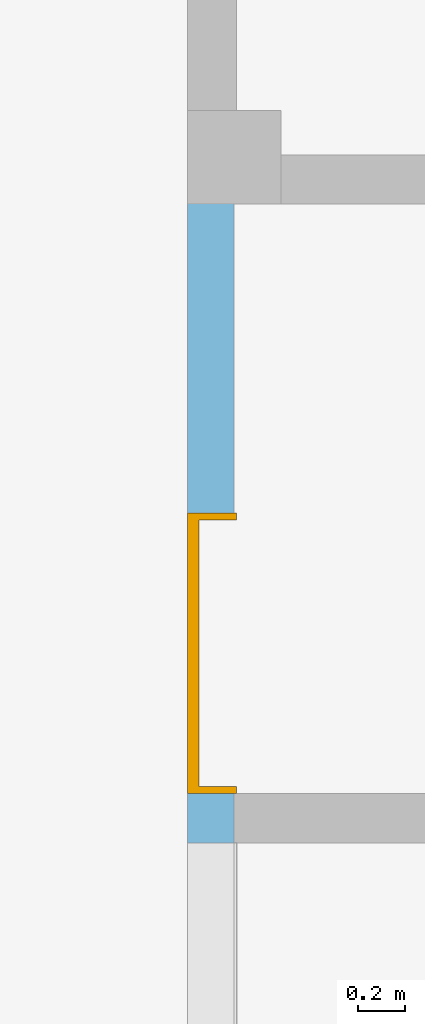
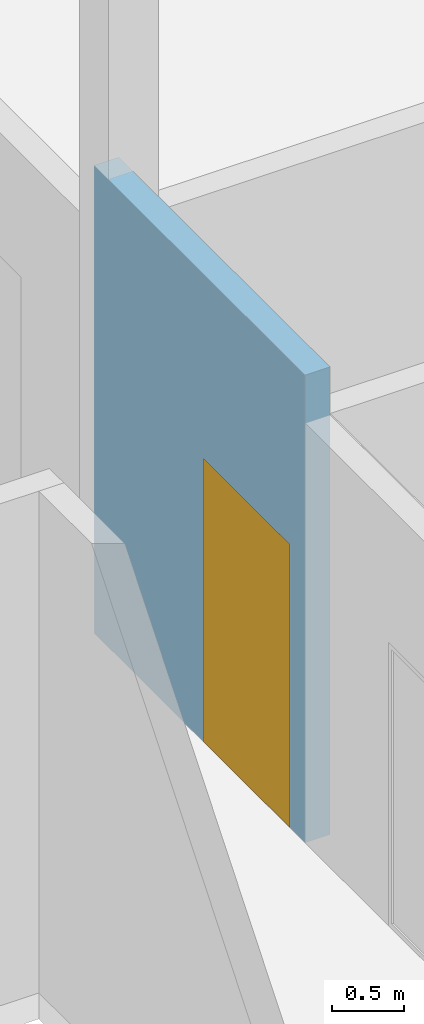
# One storey, part 38 of 89: 1 door, 1 opening, plus 1 element that does not belong to this part.
"""IFC2X3 building model written with IfcOpenShell, lengths in millimetres."""

import ifcopenshell
import ifcopenshell.guid

model = None  # the IFC model being written
_history = None  # IfcOwnerHistory: only IFC2X3 demands one
_inside = {}  # id of a spatial element -> (the spatial element, [elements in it])
_under = {}  # id of a project, library or spatial element -> (it, [spatial elements below it])
_declared = {}  # id of a project -> (the project, [libraries it declares])
_typed = {}  # id of a type object -> (the type object, [elements of that type])
_made_of = {}  # id of a material, layer set ... -> (it, [elements and type objects made of it])


def new_model(schema):
    """Start an empty IFC model of exactly this schema.

    Asked for "IFC4X3", IfcOpenShell would pick the latest addendum, in which some entities
    have other attributes; the version numbers below select the first issue.
    IFC2X3 requires an IfcOwnerHistory on every rooted entity: one is made here for all.
    """
    global model, _history
    if schema == "IFC4X3":
        model = ifcopenshell.file(schema_version=(4, 3, 0, 0))
    else:
        model = ifcopenshell.file(schema=schema)
    _inside.clear()
    _under.clear()
    _declared.clear()
    _typed.clear()
    _made_of.clear()
    _history = None
    if model.schema == "IFC2X3":
        org = make("IfcOrganization", Name="unknown")
        user = make(
            "IfcPersonAndOrganization",
            ThePerson=make("IfcPerson", FamilyName="unknown"),
            TheOrganization=org,
        )
        app = make(
            "IfcApplication",
            ApplicationDeveloper=org,
            Version="unknown",
            ApplicationFullName="unknown",
            ApplicationIdentifier="unknown",
        )
        _history = make(
            "IfcOwnerHistory",
            OwningUser=user,
            OwningApplication=app,
            ChangeAction="ADDED",
            CreationDate=0,
        )
    return model


def make(cls, **values):
    """One entity of the class cls with the attributes given. An attribute that is None is left unset."""
    return model.create_entity(
        cls, **{name: value for name, value in values.items() if value is not None}
    )


def entity(cls, *values):
    """Any entity or typed value of the class cls, its attributes in the order of the schema. None: left unset."""
    e = model.create_entity(cls)
    for i, value in enumerate(values):
        if value is not None:
            e[i] = value
    return e


def rooted(cls, **values):
    """An entity with a GlobalId (a new one), such as an element, a storey or a relation."""
    return make(cls, GlobalId=ifcopenshell.guid.new(), OwnerHistory=_history, **values)


def si_unit(unit_type, name, prefix=None):
    """IfcSIUnit, for example si_unit("LENGTHUNIT", "METRE", prefix="MILLI")."""
    return make("IfcSIUnit", UnitType=unit_type, Prefix=prefix, Name=name)


def converted_unit(unit_type, name, factor, base, dimensions=None, offset=None):
    """IfcConversionBasedUnit, such as the inch: factor (a typed value) times the base unit."""
    return make(
        "IfcConversionBasedUnit"
        if offset is None
        else "IfcConversionBasedUnitWithOffset",
        ConversionOffset=offset,
        Dimensions=None
        if dimensions is None
        else entity("IfcDimensionalExponents", *dimensions),
        UnitType=unit_type,
        Name=name,
        ConversionFactor=make(
            "IfcMeasureWithUnit", ValueComponent=factor, UnitComponent=base
        ),
    )


def derived_unit(unit_type, elements):
    """IfcDerivedUnit: a product of units, each with its exponent."""
    return make(
        "IfcDerivedUnit",
        Elements=[
            make("IfcDerivedUnitElement", Unit=unit, Exponent=power)
            for unit, power in elements
        ],
        UnitType=unit_type,
    )


def money_unit(currency):
    """IfcMonetaryUnit."""
    return make("IfcMonetaryUnit", Currency=currency)


def assignment(units):
    """IfcUnitAssignment: the units of a project."""
    return None if units is None else make("IfcUnitAssignment", Units=units)


def point(xyz):
    """IfcCartesianPoint."""
    return None if xyz is None else make("IfcCartesianPoint", Coordinates=xyz)


def direction(xyz):
    """IfcDirection."""
    return None if xyz is None else make("IfcDirection", DirectionRatios=xyz)


def frame(location, z_axis=None, x_axis=None):
    """IfcAxis2Placement3D, a coordinate frame: its origin and axes. An axis left out is left unset."""
    return make(
        "IfcAxis2Placement3D",
        Location=point(location),
        Axis=direction(z_axis),
        RefDirection=direction(x_axis),
    )


def frame_2d(location, x_axis=None):
    """IfcAxis2Placement2D, a coordinate frame in the plane: its origin and x axis."""
    return make(
        "IfcAxis2Placement2D", Location=point(location), RefDirection=direction(x_axis)
    )


def origin_with_axes():
    """The frame at (0, 0, 0) with the z axis (0, 0, 1) and the x axis (1, 0, 0) written out."""
    return frame((0.0, 0.0, 0.0), z_axis=(0.0, 0.0, 1.0), x_axis=(1.0, 0.0, 0.0))


def origin_2d_with_axis():
    """The frame at (0, 0) in the plane with the x axis (1, 0) written out."""
    return frame_2d((0.0, 0.0), x_axis=(1.0, 0.0))


def place(relative_to, where):
    """IfcLocalPlacement: puts the frame where relative to a parent placement (None: the world)."""
    return make(
        "IfcLocalPlacement", PlacementRelTo=relative_to, RelativePlacement=where
    )


def context(
    kind, dimensions, precision=None, world=None, true_north=None, identifier=None
):
    """IfcGeometricRepresentationContext, for example the 3D "Model" context."""
    return make(
        "IfcGeometricRepresentationContext",
        ContextIdentifier=identifier,
        ContextType=kind,
        CoordinateSpaceDimension=dimensions,
        Precision=precision,
        WorldCoordinateSystem=world,
        TrueNorth=true_north,
    )


def subcontext(parent, identifier, kind, view, scale=None):
    """IfcGeometricRepresentationSubContext, for example "Body" below "Model"."""
    return make(
        "IfcGeometricRepresentationSubContext",
        ContextIdentifier=identifier,
        ContextType=kind,
        ParentContext=parent,
        TargetScale=scale,
        TargetView=view,
    )


def project(units=None, contexts=None):
    """IfcProject with its units and contexts."""
    return rooted(
        "IfcProject",
        Name="project",
        RepresentationContexts=contexts,
        UnitsInContext=assignment(units),
    )


def spatial(cls, under=None, at=None, **own):
    """A site, building, storey or space (cls), placed at a placement, below another one or the project."""
    s = rooted(cls, ObjectPlacement=at, **own)
    if under is not None:
        _under.setdefault(under.id(), (under, []))[1].append(s)
    return s


def polyline(points):
    """IfcPolyline through the points."""
    return make("IfcPolyline", Points=[point(p) for p in points])


def profile(cls, at=None, kind="AREA", **sizes):
    """A parametric profile (cls). Its sizes go by their IFC names, for example OverallWidth=200.0."""
    return make(cls, ProfileType=kind, Position=at, **sizes)


def rectangle(**sizes):
    """IfcRectangleProfileDef."""
    return profile("IfcRectangleProfileDef", **sizes)


def outline(outer, holes=None, kind="AREA"):
    """IfcArbitraryClosedProfileDef: a profile drawn as a closed curve; with holes, ...WithVoids."""
    if holes is None:
        return make("IfcArbitraryClosedProfileDef", ProfileType=kind, OuterCurve=outer)
    return make(
        "IfcArbitraryProfileDefWithVoids",
        ProfileType=kind,
        OuterCurve=outer,
        InnerCurves=holes,
    )


def extrude(swept, where, along, depth):
    """IfcExtrudedAreaSolid: the profile swept, set in the frame where, extruded along a direction by depth."""
    return make(
        "IfcExtrudedAreaSolid",
        SweptArea=swept,
        Position=where,
        ExtrudedDirection=direction(along),
        Depth=depth,
    )


def faces_of(points, faces, orient=None, outer=None):
    """IfcFace entities. A face is a list of loops; a loop is a list of indices into points, from 0.

    orient and outer hold one flag for each loop. By default every Orientation is true, the
    first loop of a face is its IfcFaceOuterBound and the others are IfcFaceBound.
    """
    made = []
    for i, loops in enumerate(faces):
        bounds = []
        for j, loop in enumerate(loops):
            is_outer = j == 0 if outer is None else outer[i][j]
            bounds.append(
                make(
                    "IfcFaceOuterBound" if is_outer else "IfcFaceBound",
                    Bound=make("IfcPolyLoop", Polygon=[points[k] for k in loop]),
                    Orientation=True if orient is None else orient[i][j],
                )
            )
        made.append(make("IfcFace", Bounds=bounds))
    return made


def faceted_brep(points, faces, orient=None, outer=None, voids=None):
    """IfcFacetedBrep: a solid bounded by flat faces; with voids (closed shells), ...WithVoids."""
    shared = [point(p) for p in points]
    hull = make("IfcClosedShell", CfsFaces=faces_of(shared, faces, orient, outer))
    if voids is None:
        return make("IfcFacetedBrep", Outer=hull)
    return make(
        "IfcFacetedBrepWithVoids",
        Outer=hull,
        Voids=[
            make(cls, CfsFaces=faces_of(shared, fs, o, b)) for cls, fs, o, b in voids
        ],
    )


def shape(context_of_items, identifier, shape_type, items):
    """IfcShapeRepresentation: the items that make up one representation, for example the "Body"."""
    return make(
        "IfcShapeRepresentation",
        ContextOfItems=context_of_items,
        RepresentationIdentifier=identifier,
        RepresentationType=shape_type,
        Items=items,
    )


def material(Name=None, Category=None):
    """IfcMaterial."""
    return make("IfcMaterial", Name=Name, Category=Category)


def layer(
    of_material, thickness, ventilated=None, Name=None, Category=None, Priority=None
):
    """IfcMaterialLayer: one layer of a wall or slab, of a material (None: an air gap)."""
    return make(
        "IfcMaterialLayer",
        Material=of_material,
        LayerThickness=thickness,
        IsVentilated=ventilated,
        Name=Name,
        Category=Category,
        Priority=Priority,
    )


def layer_set(layers, Name=None):
    """IfcMaterialLayerSet."""
    return make("IfcMaterialLayerSet", MaterialLayers=layers, LayerSetName=Name)


def layer_usage(for_layer_set, set_direction, sense, offset, extent=None):
    """IfcMaterialLayerSetUsage: how a layer set lies in its element."""
    return make(
        "IfcMaterialLayerSetUsage",
        ForLayerSet=for_layer_set,
        LayerSetDirection=set_direction,
        DirectionSense=sense,
        OffsetFromReferenceLine=offset,
        ReferenceExtent=extent,
    )


def made_of(thing, what):
    """Note that an element or type object is made of a material, layer set ...; save() writes the relation."""
    if what is not None:
        _made_of.setdefault(what.id(), (what, []))[1].append(thing)
    return thing


def type_object(cls, material=None, **own):
    """A type object (cls), such as IfcWallType, which elements share."""
    return made_of(rooted(cls, **own), material)


def element(
    cls,
    number,
    at=None,
    inside=None,
    cuts=None,
    type_object=None,
    material=None,
    context=None,
    identifier="Body",
    shape_type=None,
    held_by="IfcProductDefinitionShape",
    body=None,
    shapes=None,
    **own,
):
    """One element of the class cls, such as IfcWall. Its Tag is "e" and its number.

    at: its placement. inside: the storey or other place that contains it. cuts: it is an
    opening in that element (IfcRelVoidsElement). A single representation is given by context,
    identifier, shape_type and body (its items); several are given by shapes. held_by: the class
    of the entity that holds the representations. save() writes the other relations.
    """
    e = rooted(cls, Tag="e%d" % number, ObjectPlacement=at, **own)
    if body is not None:
        shapes = [shape(context, identifier, shape_type, body)]
    if shapes is not None:
        e.Representation = make(held_by, Representations=shapes)
    if inside is not None:
        _inside.setdefault(inside.id(), (inside, []))[1].append(e)
    if cuts is not None:
        rooted(
            "IfcRelVoidsElement", RelatingBuildingElement=cuts, RelatedOpeningElement=e
        )
    if type_object is not None:
        _typed.setdefault(type_object.id(), (type_object, []))[1].append(e)
    return made_of(e, material)


def fill(opening, filler):
    """IfcRelFillsElement: the door or window that sits in an opening."""
    return rooted(
        "IfcRelFillsElement",
        RelatingOpeningElement=opening,
        RelatedBuildingElement=filler,
    )


def aggregate(whole, parts):
    """IfcRelAggregates: a whole, such as a stair, and the parts it consists of."""
    return rooted("IfcRelAggregates", RelatingObject=whole, RelatedObjects=parts)


def save(model, path):
    """Write the relations noted so far, then the file.

    IfcRelAggregates (storeys below a building ...), IfcRelContainedInSpatialStructure (elements
    in a storey), IfcRelDefinesByType, IfcRelAssociatesMaterial and IfcRelDeclares: one each for
    every whole, place, type object, material and project.
    """
    for whole, parts in _under.values():
        aggregate(whole, parts)
    for where, things in _inside.values():
        rooted(
            "IfcRelContainedInSpatialStructure",
            RelatedElements=things,
            RelatingStructure=where,
        )
    for kind, things in _typed.values():
        rooted("IfcRelDefinesByType", RelatedObjects=things, RelatingType=kind)
    for what, things in _made_of.values():
        rooted("IfcRelAssociatesMaterial", RelatedObjects=things, RelatingMaterial=what)
    for by, libraries in _declared.values():
        rooted("IfcRelDeclares", RelatingContext=by, RelatedDefinitions=libraries)
    model.write(path)


model = new_model("IFC2X3")

# Units and contexts
model_context = context("Model", 3, precision=0.01, world=origin_with_axes(), true_north=direction((0.0, 1.0)))
body_context = subcontext(model_context, "Body", "Model", "MODEL_VIEW")
ifc_project = project(units=[si_unit("LENGTHUNIT", "METRE", prefix="MILLI"), si_unit("AREAUNIT", "SQUARE_METRE"), si_unit("VOLUMEUNIT", "CUBIC_METRE"), converted_unit("PLANEANGLEUNIT", "DEGREE", entity("IfcPlaneAngleMeasure", 0.0174532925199), si_unit("PLANEANGLEUNIT", "RADIAN"), dimensions=[0, 0, 0, 0, 0, 0, 0]), si_unit("SOLIDANGLEUNIT", "STERADIAN"), money_unit("EUR"), converted_unit("TIMEUNIT", "Year", entity("IfcTimeMeasure", 31556926.0), si_unit("TIMEUNIT", "SECOND"), dimensions=[0, 0, 1, 0, 0, 0, 0]), si_unit("MASSUNIT", "GRAM", prefix="KILO"), si_unit("THERMODYNAMICTEMPERATUREUNIT", "DEGREE_CELSIUS"), si_unit("LUMINOUSINTENSITYUNIT", "LUMEN"), si_unit("ENERGYUNIT", "JOULE", prefix="MEGA"), derived_unit("THERMALCONDUCTANCEUNIT", [(si_unit("POWERUNIT", "WATT"), 1), (si_unit("LENGTHUNIT", "METRE"), -1), (si_unit("THERMODYNAMICTEMPERATUREUNIT", "KELVIN"), -1)]), derived_unit("SPECIFICHEATCAPACITYUNIT", [(si_unit("ENERGYUNIT", "JOULE"), 1), (si_unit("MASSUNIT", "GRAM", prefix="KILO"), -1), (si_unit("THERMODYNAMICTEMPERATUREUNIT", "KELVIN"), -1)]), derived_unit("MASSDENSITYUNIT", [(si_unit("MASSUNIT", "GRAM", prefix="KILO"), 1), (si_unit("VOLUMEUNIT", "CUBIC_METRE"), -1)])], contexts=[model_context])

# Site, building, storey
site_placement = place(None, origin_with_axes())
site = spatial("IfcSite", under=ifc_project, at=site_placement, Name="Puškini 31, Narva", CompositionType="ELEMENT")
building_placement = place(site_placement, origin_with_axes())
building = spatial("IfcBuilding", under=site, at=building_placement, Name="Narva Riigigümnaasium", CompositionType="ELEMENT")
storey_placement = place(building_placement, frame((0.0, 0.0, -3300.0), z_axis=(0.0, 0.0, 1.0), x_axis=(1.0, 0.0, 0.0)))
storey = spatial("IfcBuildingStorey", under=building, at=storey_placement, Name="1.korrus -3.3", CompositionType="ELEMENT", Elevation=-3300.0)

# Wall, opening, door
ifc_material = material(Name="Betoon element")
ifc_layer = layer(ifc_material, 200.0, ventilated="UNKNOWN")
ifc_layer_set = layer_set([ifc_layer], Name="G-SS-01")
ifc_layer_usage = layer_usage(ifc_layer_set, "AXIS2", "POSITIVE", 0.0)
wall_type = type_object("IfcWallType", Name="G-SS-01 200", PredefinedType="NOTDEFINED")
wall_placement = place(storey_placement, frame((47499.9999928, 224000.0, 0.0), z_axis=(0.0, 0.0, 1.0), x_axis=(0.0, -1.0, 0.0)))
wall = element("IfcWallStandardCase", 1, at=wall_placement, inside=storey, type_object=wall_type, material=ifc_layer_usage, Name="Sisesein", context=body_context, shape_type="SweptSolid", body=[
    extrude(outline(polyline([(0.0, 0.0), (2930.00000142, 0.0), (2930.00000142, 200.0), (0.0, 200.0), (0.0, 0.0)])), origin_with_axes(), (0.0, 0.0, 1.0), 3960.0),
])
opening_placement = place(wall_placement, frame((2120.00000153, 0.0, 0.0), z_axis=(0.0, 0.0, 1.0), x_axis=(1.0, 0.0, 0.0)))
opening = element("IfcOpeningElement", 2, at=opening_placement, cuts=wall, Name="G-SU-032", context=body_context, shape_type="SweptSolid", body=[
    extrude(rectangle(XDim=1199.99999978, YDim=2400.0, at=origin_2d_with_axis()), frame((0.0, 50.0, 1200.0), z_axis=(0.0, -1.0, 0.0), x_axis=(1.0, 0.0, 0.0)), (0.0, 0.0, -1.0), 350.0),
    extrude(rectangle(XDim=1199.99999978, YDim=2400.0, at=origin_2d_with_axis()), frame((0.0, 50.0, 1200.0), z_axis=(0.0, 1.0, 0.0), x_axis=(1.0, 0.0, 0.0)), (0.0, 0.0, -1.0), 250.0),
    extrude(rectangle(XDim=1199.99999978, YDim=2400.0, at=origin_2d_with_axis()), frame((0.0, 200.0, 1200.0), z_axis=(0.0, -1.0, 0.0), x_axis=(1.0, 0.0, 0.0)), (0.0, 0.0, -1.0), 350.0),
])
door_style = type_object("IfcDoorStyle", Name="Door 23", ConstructionType="NOTDEFINED", OperationType="SINGLE_SWING_RIGHT", ParameterTakesPrecedence=False, Sizeable=False)
door_placement = place(opening_placement, frame((-599.999999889, 0.0, 0.0), z_axis=(0.0, 0.0, 1.0), x_axis=(1.0, 0.0, 0.0)))
door = element("IfcDoor", 3, at=door_placement, inside=storey, type_object=door_style, Name="G-SU-032", ObjectType="DOOR", OverallHeight=2400.0, OverallWidth=1200.0, context=body_context, shape_type="Brep", body=[
    faceted_brep([(0.0, 50.0, 0.0), (0.0, 200.0, 0.0), (30.0, 200.0, 0.0), (30.0, 50.0, 0.0), (0.0, 50.0, 2400.0), (0.0, 200.0, 2400.0), (30.0, 200.0, 2370.0), (30.0, 50.0, 2370.0)], [[[0, 1, 2, 3]], [[4, 5, 1, 0]], [[1, 5, 6, 2]], [[3, 2, 6, 7]], [[0, 3, 7, 4]], [[7, 6, 5, 4]]]),
    faceted_brep([(1199.99999978, 50.0, 2400.0), (1199.99999978, 200.0, 2400.0), (1169.99999978, 200.0, 2370.0), (1169.99999978, 50.0, 2370.0), (1199.99999978, 50.0, 0.0), (1199.99999978, 200.0, 0.0), (1169.99999978, 200.0, 0.0), (1169.99999978, 50.0, 0.0)], [[[0, 1, 2, 3]], [[4, 5, 1, 0]], [[1, 5, 6, 2]], [[3, 2, 6, 7]], [[0, 3, 7, 4]], [[7, 6, 5, 4]]]),
    faceted_brep([(0.0, 50.0, 2400.0), (0.0, 200.0, 2400.0), (30.0, 200.0, 2370.0), (30.0, 50.0, 2370.0), (1199.99999978, 50.0, 2400.0), (1199.99999978, 200.0, 2400.0), (1169.99999978, 200.0, 2370.0), (1169.99999978, 50.0, 2370.0)], [[[0, 1, 2, 3]], [[4, 5, 1, 0]], [[1, 5, 6, 2]], [[3, 2, 6, 7]], [[0, 3, 7, 4]], [[7, 6, 5, 4]]]),
    faceted_brep([(0.0, 210.0, 0.0), (30.0, 210.0, 0.0), (30.0, 200.0, 0.0), (0.0, 200.0, 0.0), (0.0, 210.0, 2400.0), (30.0, 210.0, 2370.0), (30.0, 200.0, 2370.0), (0.0, 200.0, 2400.0)], [[[0, 1, 2, 3]], [[0, 4, 5, 1]], [[1, 5, 6, 2]], [[3, 2, 6, 7]], [[4, 0, 3, 7]], [[5, 4, 7, 6]]]),
    faceted_brep([(1199.99999978, 210.0, 2400.0), (1169.99999978, 210.0, 2370.0), (1169.99999978, 200.0, 2370.0), (1199.99999978, 200.0, 2400.0), (1199.99999978, 210.0, 0.0), (1169.99999978, 210.0, 0.0), (1169.99999978, 200.0, 0.0), (1199.99999978, 200.0, 0.0)], [[[0, 1, 2, 3]], [[0, 4, 5, 1]], [[1, 5, 6, 2]], [[3, 2, 6, 7]], [[4, 0, 3, 7]], [[5, 4, 7, 6]]]),
    faceted_brep([(0.0, 210.0, 2400.0), (30.0, 210.0, 2370.0), (30.0, 200.0, 2370.0), (0.0, 200.0, 2400.0), (1199.99999978, 210.0, 2400.0), (1169.99999978, 210.0, 2370.0), (1169.99999978, 200.0, 2370.0), (1199.99999978, 200.0, 2400.0)], [[[0, 1, 2, 3]], [[0, 4, 5, 1]], [[1, 5, 6, 2]], [[3, 2, 6, 7]], [[4, 0, 3, 7]], [[5, 4, 7, 6]]]),
    faceted_brep([(38.0, 0.0, 0.0), (38.0, 0.0, 2350.0), (0.0, 0.0, 2350.0), (0.0, 0.0, 0.0), (38.0, 50.0, 2350.0), (38.0, 50.0, 0.0), (0.0, 50.0, 2350.0), (0.0, 50.0, 0.0)], [[[0, 1, 2, 3]], [[4, 1, 0, 5]], [[1, 4, 6, 2]], [[7, 3, 2, 6]], [[5, 0, 3, 7]], [[4, 5, 7, 6]]]),
    faceted_brep([(1161.99999978, 50.0, 2350.0), (1161.99999978, 0.0, 2350.0), (1199.99999978, 0.0, 2350.0), (1199.99999978, 50.0, 2350.0), (1161.99999978, 0.0, 0.0), (1161.99999978, 50.0, 0.0), (1199.99999978, 0.0, 0.0), (1199.99999978, 50.0, 0.0)], [[[0, 1, 2, 3]], [[4, 1, 0, 5]], [[1, 4, 6, 2]], [[3, 2, 6, 7]], [[5, 0, 3, 7]], [[4, 5, 7, 6]]]),
    faceted_brep([(38.0, 0.0, 2350.0), (38.0, 0.0, 2362.0), (1161.99999978, 0.0, 2362.0), (1161.99999978, 0.0, 2350.0), (1199.99999978, 0.0, 2350.0), (1199.99999978, 0.0, 2400.0), (0.0, 0.0, 2400.0), (0.0, 0.0, 2350.0), (38.0, 50.0, 2350.0), (38.0, 50.0, 2362.0), (1161.99999978, 50.0, 2362.0), (1161.99999978, 50.0, 2350.0), (1199.99999978, 50.0, 2350.0), (1199.99999978, 50.0, 2400.0), (0.0, 50.0, 2400.0), (0.0, 50.0, 2350.0)], [[[0, 1, 2, 3, 4, 5, 6, 7]], [[1, 0, 8, 9]], [[2, 1, 9, 10]], [[3, 2, 10, 11]], [[3, 11, 12, 4]], [[13, 5, 4, 12]], [[14, 6, 5, 13]], [[15, 7, 6, 14]], [[8, 0, 7, 15]], [[9, 8, 15, 14, 13, 12, 11, 10]]]),
    faceted_brep([(1161.99999978, 50.0, 0.0), (1161.99999978, 0.0, 0.0), (38.0, 0.0, 0.0), (38.0, 50.0, 0.0), (1161.99999978, 50.0, 2362.0), (1161.99999978, 0.0, 2362.0), (38.0, 0.0, 2362.0), (38.0, 50.0, 2362.0)], [[[0, 1, 2, 3]], [[4, 5, 1, 0]], [[1, 5, 6, 2]], [[3, 2, 6, 7]], [[0, 3, 7, 4]], [[7, 6, 5, 4]]]),
])
fill(opening, door)

save(model, "model.ifc")
